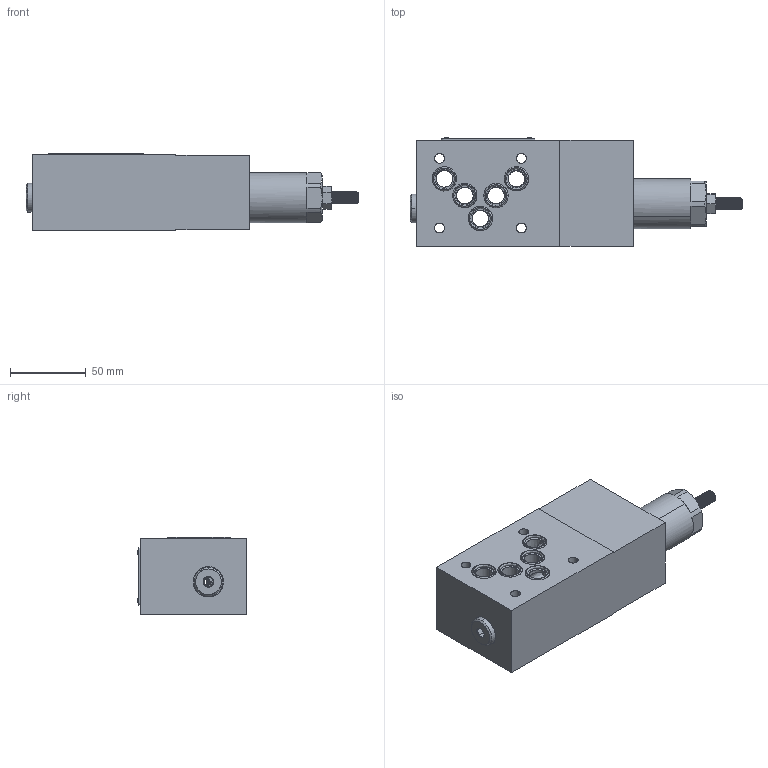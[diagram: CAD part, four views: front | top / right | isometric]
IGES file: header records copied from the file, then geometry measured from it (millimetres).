
Start section: SolidWorks IGES file using analytic representation for surfaces
Global section: file name: C:\Users\pc-te25\Desktop\ASSIEME 376-4-P-12-05.IGS; native system: SolidWorks 2018; preprocessor: SolidWorks 2018; author: pc-te25; date: 191204.100047; units: millimetre
Bounding box: 219.21 x 71.66 x 50.91 mm (x, y, z)
Surface area: 68357.1 mm2 (no closed solid volume)
Topology: 0 solids, 0 shells, 733 faces, 12993 edges, 12993 vertices
Faces by surface type: bspline 463, revolution 270
